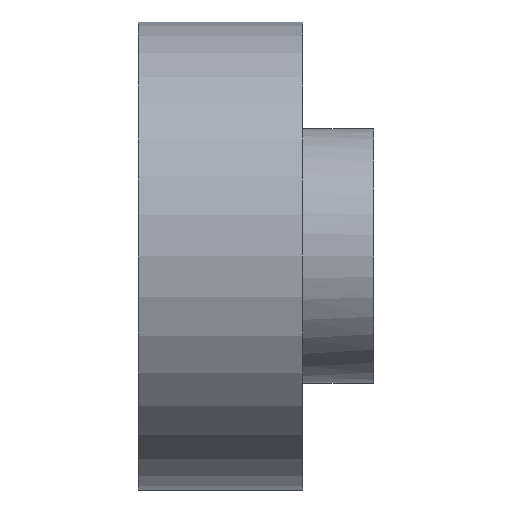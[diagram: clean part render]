
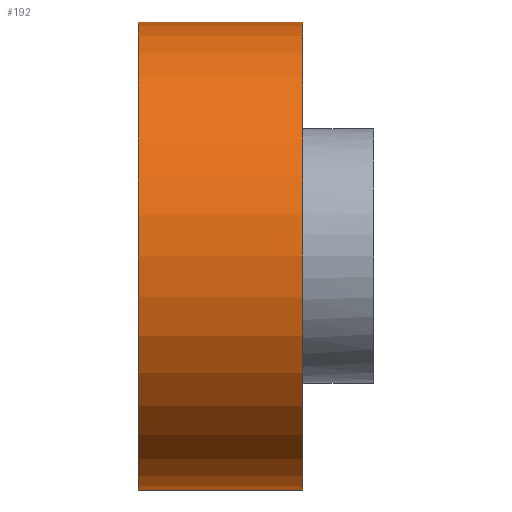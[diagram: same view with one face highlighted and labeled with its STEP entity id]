
A CAD part, left-side view. The second image highlights one B-rep face of the part: STEP entity #192.
In plain terms, the highlighted cylindrical face has radius 33 mm (diameter 66 mm), a full revolution.
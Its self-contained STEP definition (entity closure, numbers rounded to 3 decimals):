
#35=FACE_OUTER_BOUND('',#49,.T.);
#49=EDGE_LOOP('',(#168,#169,#170,#171));
#67=LINE('',#337,#81);
#81=VECTOR('',#283,33.);
#90=CIRCLE('',#225,33.);
#91=CIRCLE('',#227,33.);
#106=VERTEX_POINT('',#332);
#107=VERTEX_POINT('',#335);
#129=EDGE_CURVE('',#106,#106,#90,.T.);
#130=EDGE_CURVE('',#107,#107,#91,.T.);
#131=EDGE_CURVE('',#107,#106,#67,.T.);
#168=ORIENTED_EDGE('',*,*,#130,.F.);
#169=ORIENTED_EDGE('',*,*,#131,.T.);
#170=ORIENTED_EDGE('',*,*,#129,.T.);
#171=ORIENTED_EDGE('',*,*,#131,.F.);
#183=CYLINDRICAL_SURFACE('',#226,33.);
#192=ADVANCED_FACE('',(#35),#183,.T.);
#225=AXIS2_PLACEMENT_3D('',#333,#277,#278);
#226=AXIS2_PLACEMENT_3D('',#334,#279,#280);
#227=AXIS2_PLACEMENT_3D('',#336,#281,#282);
#277=DIRECTION('center_axis',(0.,1.,0.));
#278=DIRECTION('ref_axis',(1.,0.,0.));
#279=DIRECTION('center_axis',(0.,1.,0.));
#280=DIRECTION('ref_axis',(1.,0.,0.));
#281=DIRECTION('center_axis',(0.,1.,0.));
#282=DIRECTION('ref_axis',(1.,0.,0.));
#283=DIRECTION('',(0.,-1.,0.));
#332=CARTESIAN_POINT('',(-33.,10.,0.));
#333=CARTESIAN_POINT('Origin',(0.,10.,0.));
#334=CARTESIAN_POINT('Origin',(0.,0.,0.));
#335=CARTESIAN_POINT('',(-33.,33.15,0.));
#336=CARTESIAN_POINT('Origin',(0.,33.15,0.));
#337=CARTESIAN_POINT('',(-33.,0.,0.));
